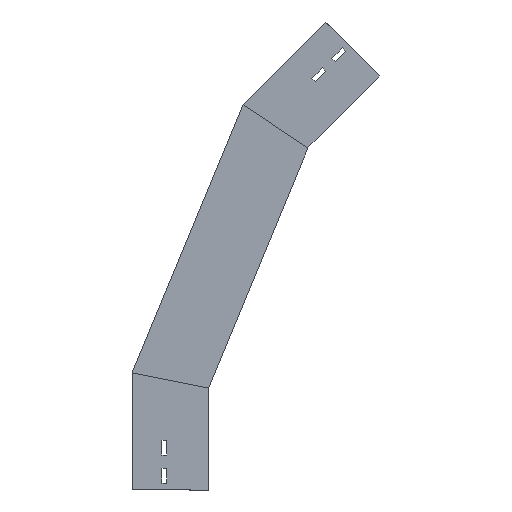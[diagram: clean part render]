
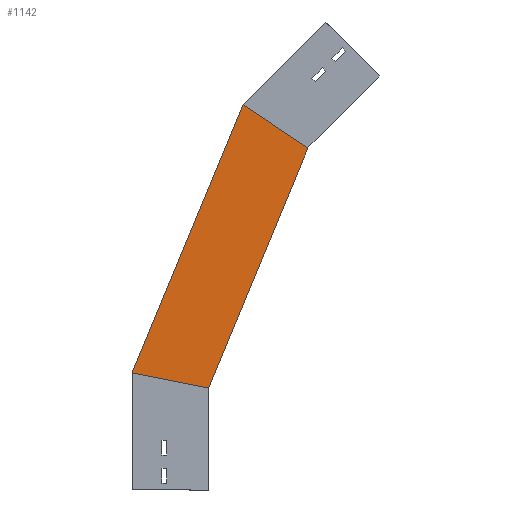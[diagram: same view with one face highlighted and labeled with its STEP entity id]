
A CAD part, left-side view. The second image highlights one B-rep face of the part: STEP entity #1142.
In plain terms, the highlighted planar face has unit normal (-1, 0, 0) as drawn and (1, 0, 0) by its records, which use the part's own axes.
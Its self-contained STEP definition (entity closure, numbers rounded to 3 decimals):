
#12 = PLANE ( 'NONE',  #14 ) ;
#14 = AXIS2_PLACEMENT_3D ( 'NONE', #946, #354, #1289 ) ;
#15 = EDGE_LOOP ( 'NONE', ( #49, #1341, #1429, #774 ) ) ;
#25 = DIRECTION ( 'NONE',  ( 0., -0.383, 0.924 ) ) ;
#49 = ORIENTED_EDGE ( 'NONE', *, *, #709, .T. ) ;
#94 = VERTEX_POINT ( 'NONE', #538 ) ;
#173 = CARTESIAN_POINT ( 'NONE',  ( 0., 9.458, 127.166 ) ) ;
#188 = LINE ( 'NONE', #173, #1063 ) ;
#212 = CARTESIAN_POINT ( 'NONE',  ( 0., -146.568, 503.846 ) ) ;
#257 = EDGE_CURVE ( 'NONE', #484, #531, #497, .T. ) ;
#354 = DIRECTION ( 'NONE',  ( 1., 0., 0. ) ) ;
#403 = CARTESIAN_POINT ( 'NONE',  ( 0., -51.195, 567.572 ) ) ;
#484 = VERTEX_POINT ( 'NONE', #403 ) ;
#497 = LINE ( 'NONE', #1439, #1311 ) ;
#531 = VERTEX_POINT ( 'NONE', #212 ) ;
#538 = CARTESIAN_POINT ( 'NONE',  ( 0., 0., 150. ) ) ;
#628 = DIRECTION ( 'NONE',  ( 0., -0.383, 0.924 ) ) ;
#645 = LINE ( 'NONE', #1139, #811 ) ;
#689 = LINE ( 'NONE', #948, #1421 ) ;
#709 = EDGE_CURVE ( 'NONE', #712, #484, #689, .T. ) ;
#712 = VERTEX_POINT ( 'NONE', #723 ) ;
#723 = CARTESIAN_POINT ( 'NONE',  ( 0., 112.5, 172.378 ) ) ;
#774 = ORIENTED_EDGE ( 'NONE', *, *, #964, .F. ) ;
#811 = VECTOR ( 'NONE', #891, 1000. ) ;
#891 = DIRECTION ( 'NONE',  ( 0., -0.981, -0.195 ) ) ;
#946 = CARTESIAN_POINT ( 'NONE',  ( 0., 9.458, 127.166 ) ) ;
#948 = CARTESIAN_POINT ( 'NONE',  ( 0., 113.395, 170.218 ) ) ;
#964 = EDGE_CURVE ( 'NONE', #712, #94, #645, .T. ) ;
#1063 = VECTOR ( 'NONE', #628, 1000. ) ;
#1139 = CARTESIAN_POINT ( 'NONE',  ( 0., -28.701, 144.291 ) ) ;
#1142 = ADVANCED_FACE ( 'NONE', ( #1178 ), #12, .T. ) ;
#1178 = FACE_OUTER_BOUND ( 'NONE', #15, .T. ) ;
#1221 = EDGE_CURVE ( 'NONE', #94, #531, #188, .T. ) ;
#1289 = DIRECTION ( 'NONE',  ( 0., 0., -1. ) ) ;
#1311 = VECTOR ( 'NONE', #1431, 1000. ) ;
#1341 = ORIENTED_EDGE ( 'NONE', *, *, #257, .T. ) ;
#1421 = VECTOR ( 'NONE', #25, 1000. ) ;
#1429 = ORIENTED_EDGE ( 'NONE', *, *, #1221, .F. ) ;
#1431 = DIRECTION ( 'NONE',  ( 0., -0.831, -0.556 ) ) ;
#1439 = CARTESIAN_POINT ( 'NONE',  ( 0., -212.704, 459.655 ) ) ;
